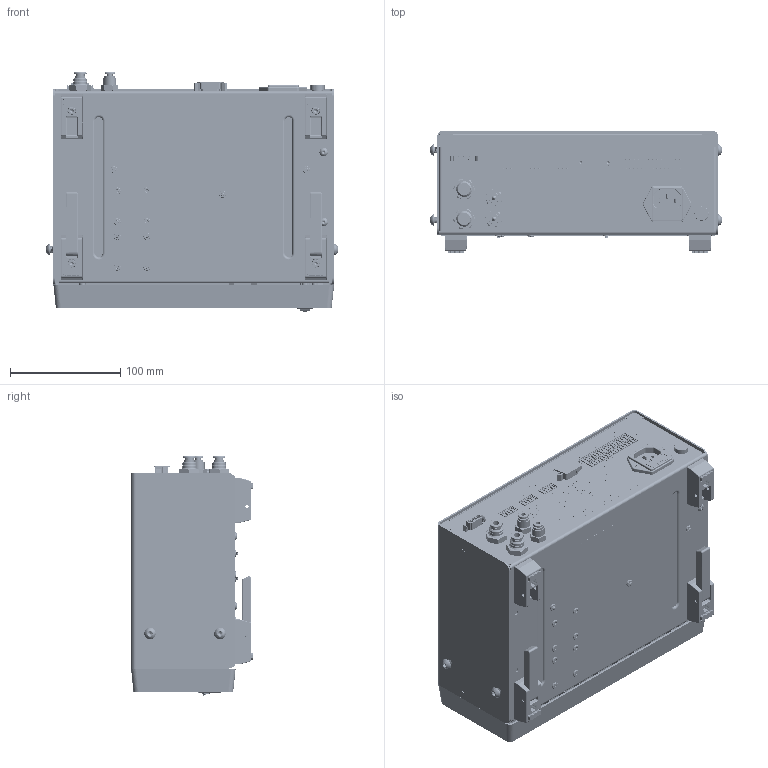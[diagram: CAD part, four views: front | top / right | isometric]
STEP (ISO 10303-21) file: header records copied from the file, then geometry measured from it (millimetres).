
FILE_DESCRIPTION (( 'STEP AP214' ), '1' );
FILE_NAME ('NORDSONEFD-7028693 CONTROLLER VM9000.STEP', '2019-01-31T21:17:28', ( '' ), ( '' ), 'SwSTEP 2.0', 'SolidWorks 2019', '' );
FILE_SCHEMA (( 'AUTOMOTIVE_DESIGN' ));
Products named in the file (1): NORDSONEFD-7028693 CONTROLLER VM9000
Bounding box: 264.78 x 111.06 x 217.2 mm (x, y, z)
Volume: 4328772.9 mm3; surface area: 456789.6 mm2
Topology: 3 solids, 3 shells, 15198 faces, 40166 edges, 26289 vertices
Faces by surface type: plane 8884, bspline 4213, cylinder 1268, cone 567, torus 247, sphere 19
Entity records: 658151 total; most frequent: CARTESIAN_POINT 310481, ORIENTED_EDGE 80260, DIRECTION 55892, EDGE_CURVE 40130, VECTOR 27420, LINE 27420, VERTEX_POINT 26289, EDGE_LOOP 16673
